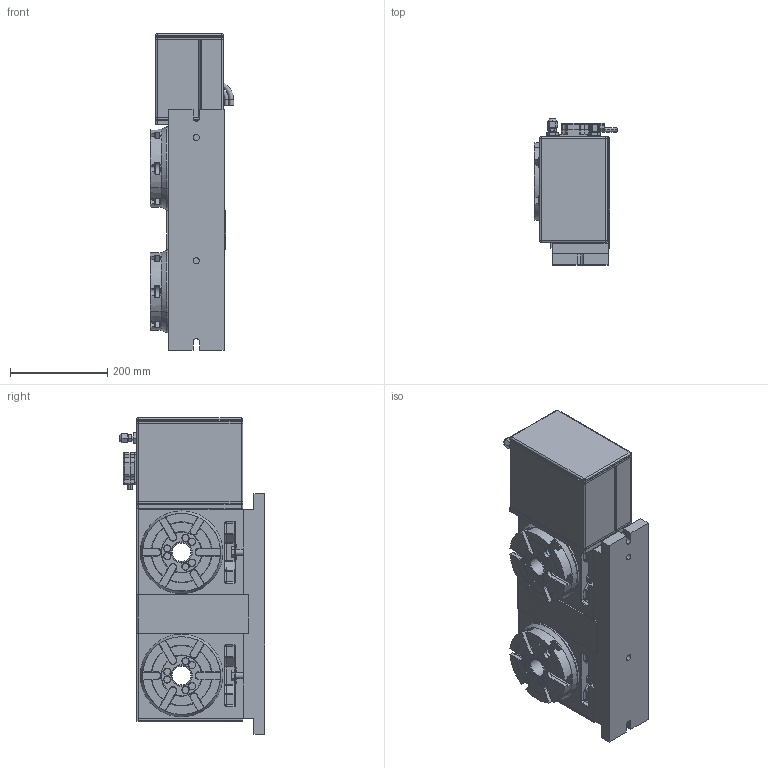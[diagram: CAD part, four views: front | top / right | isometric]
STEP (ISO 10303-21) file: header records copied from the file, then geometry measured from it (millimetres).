
FILE_DESCRIPTION (( 'STEP AP214' ), '1' );
FILE_NAME ('HRT160-2-STEP_2019-08.STEP', '2019-08-23T15:44:28', ( '' ), ( '' ), 'SwSTEP 2.0', 'SolidWorks 2018', '' );
FILE_SCHEMA (( 'AUTOMOTIVE_DESIGN' ));
Length unit declared in the file: inch
Products named in the file (3): 20-4151; HRT160-2 Defeature; HRT160-2-STEP_2019-08
Assembly tree (3 placements, depth 2):
  HRT160-2-STEP_2019-08
    HRT160-2 Defeature
    20-4151  x2
Bounding box: 171.58 x 300.13 x 651.63 mm (x, y, z)
Volume: 12555657.4 mm3; surface area: 1385143.8 mm2
Topology: 6 solids, 6 shells, 1939 faces, 4675 edges, 2855 vertices
Faces by surface type: plane 809, cylinder 689, cone 230, torus 137, sphere 51, bspline 23
Entity records: 59945 total; most frequent: CARTESIAN_POINT 10715, DIRECTION 8476, ORIENTED_EDGE 7808, EDGE_CURVE 3904, AXIS2_PLACEMENT_3D 3261, VERTEX_POINT 2395, LINE 1954, VECTOR 1954
